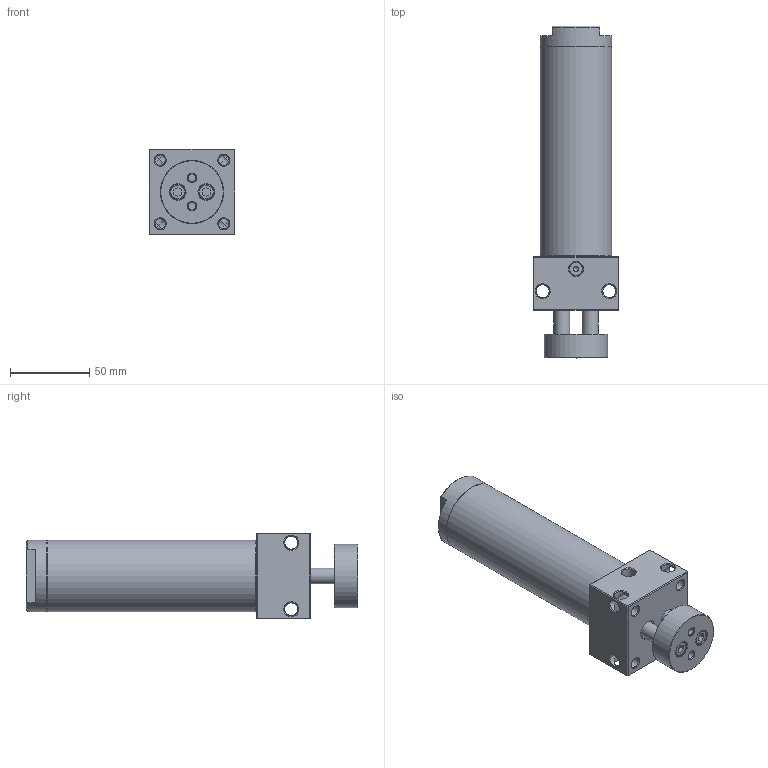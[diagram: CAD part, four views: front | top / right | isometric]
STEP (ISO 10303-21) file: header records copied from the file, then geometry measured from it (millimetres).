
FILE_DESCRIPTION((''),'2;1');
FILE_NAME('I:\3D電子目錄\氣缸\DBT\DBT\DBT40\DBT40x75.stp','2007-10-08T09:01:04',('Administrator'),(''),'Autodesk Inventor 2008','Autodesk Inventor 2008','');
FILE_SCHEMA(('AUTOMOTIVE_DESIGN { 1 0 10303 214 1 1 1 1 }'));
Length unit declared in the file: millimetre
Products named in the file (1): DBT40x75
Bounding box: 54 x 209 x 54 mm (x, y, z)
Volume: 188181.8 mm3; surface area: 74529.9 mm2
Topology: 5 solids, 5 shells, 164 faces, 360 edges, 215 vertices
Faces by surface type: plane 57, bspline 47, cone 37, cylinder 23
Full cylindrical faces by diameter (mm): 3 x1, 4.3 x1, 6 x1, 9.5 x1, 10 x4, 12 x1, 13 x1, 22 x1, 38.8 x2, 40 x2, 40.8 x2, 42 x2, 42.2 x2, 45 x2
Entity records: 4662 total; most frequent: CARTESIAN_POINT 1568, DIRECTION 604, ORIENTED_EDGE 500, EDGE_LOOP 300, AXIS2_PLACEMENT_3D 256, EDGE_CURVE 250, VERTEX_POINT 196, FACE_OUTER_BOUND 164
